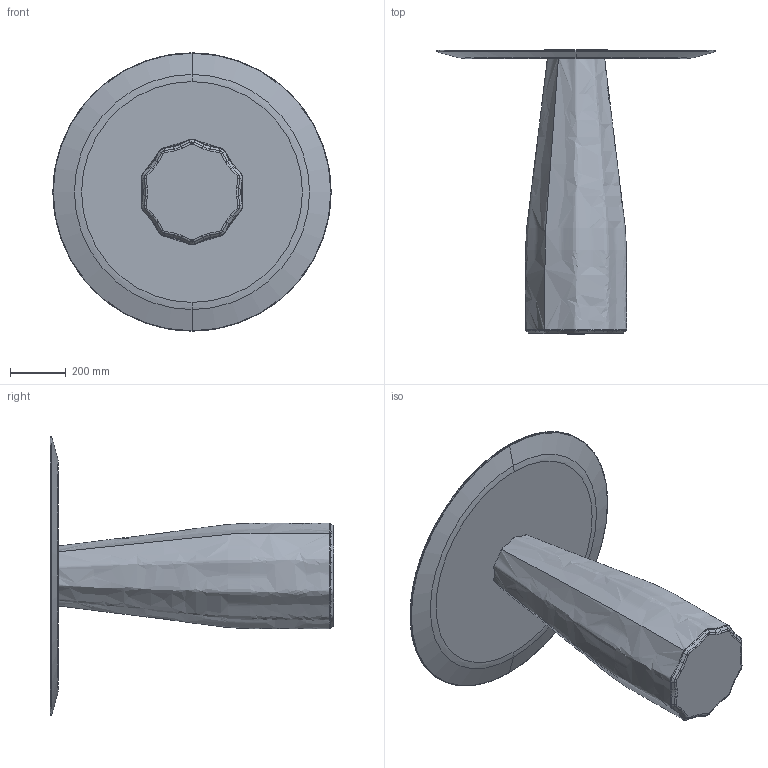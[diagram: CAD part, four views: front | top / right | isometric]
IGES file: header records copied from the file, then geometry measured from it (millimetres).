
Start section: SolidWorks IGES file using analytic representation for surfaces
Global section: file name: Z:\01-VICCARBE\VICCARBE TECNICO 2018\6.-Studio VCCB\Otros\Burin\Modelado\WEB\Nueva carpeta\BurinH100D100.IGS; native system: SolidWorks 2013; preprocessor: SolidWorks 2013; author: Usuario; date: 190219.123914; units: millimetre
Bounding box: 1000 x 1020 x 1000 mm (x, y, z)
Volume: 98629207 mm3; surface area: 2730598.4 mm2
Topology: 2 solids, 2 shells, 156 faces, 408 edges, 236 vertices
Faces by surface type: bspline 142, revolution 10, plane 4
